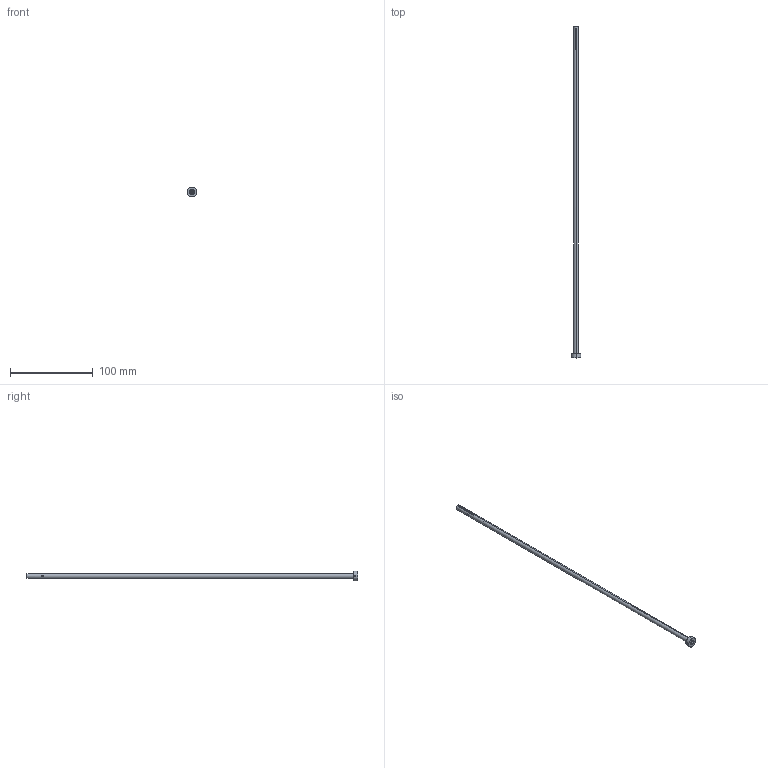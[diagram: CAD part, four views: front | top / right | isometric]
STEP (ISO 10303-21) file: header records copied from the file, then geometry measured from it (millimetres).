
FILE_DESCRIPTION (( 'STEP AP203' ), '1' );
FILE_NAME ('SGDE-608x400.STEP', '2017-01-10T15:41:44', ( 'Balzi' ), ( '' ), 'SwSTEP 2.0', 'SolidWorks 2016', '' );
FILE_SCHEMA (( 'CONFIG_CONTROL_DESIGN' ));
Length unit declared in the file: millimetre
Products named in the file (1): SGDE-608x400
Bounding box: 12 x 400.8 x 12 mm (x, y, z)
Volume: 6281 mm3; surface area: 13763.9 mm2
Topology: 1 solids, 1 shells, 84 faces, 234 edges, 154 vertices
Faces by surface type: cylinder 48, plane 32, cone 4
Entity records: 3313 total; most frequent: CARTESIAN_POINT 1077, ORIENTED_EDGE 468, DIRECTION 422, EDGE_CURVE 234, AXIS2_PLACEMENT_3D 155, VERTEX_POINT 154, LINE 112, VECTOR 112
